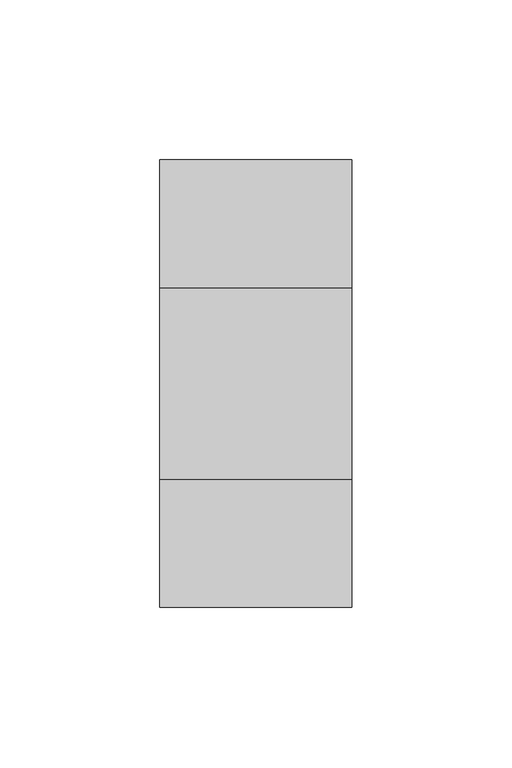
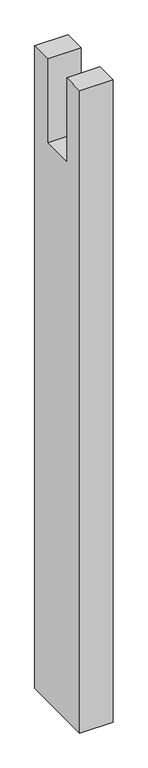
"""IFC4 building model written with IfcOpenShell, lengths in millimetres: proxy geometry, Modelos genéricos 11 : Modelos genéricos 11."""

from ifc_helpers import new_model, si_unit, frame, origin, place, context, project, spatial, polyline, outline, extrude, source, transform, mapped, element, save


def generic_models_12623c72(model_context):
    return source(origin(), model_context, "Body", "SweptSolid", [
        extrude(outline(polyline([(2018.6238165, 3160.0), (1878.6238165, 3160.0), (1878.6238165, 4380.0), (1918.6238165, 4380.0), (1918.6238165, 4220.0), (1978.6238165, 4220.0), (1978.6238165, 4380.0), (2018.6238165, 4380.0), (2018.6238165, 3160.0)])), frame((-12676.5527533, 0.0, 0.0), z_axis=(1.0, 0.0, 0.0), x_axis=(0.0, 1.0, 0.0)), (0.0, 0.0, 1.0), 60.0),
    ])


if __name__ == "__main__":
    model = new_model("IFC4")
    model_context = context("Model", 3, world=origin())
    ifc_project = project(units=[si_unit("LENGTHUNIT", "METRE", prefix="MILLI")], contexts=[model_context])
    site = spatial("IfcSite", under=ifc_project)
    building = spatial("IfcBuilding", under=site)
    placement = place(None, origin())
    generic_models_shape = generic_models_12623c72(model_context)
    element("IfcBuildingElementProxy", 1, Name="Modelos genéricos 11 : Modelos genéricos 11", ObjectType="Modelos genéricos 11 : Modelos genéricos 11", at=placement, inside=building, context=model_context, shape_type="MappedRepresentation", body=[
        mapped(generic_models_shape, transform((0.0, 0.0, 0.0), x_axis=(1.0, 0.0, 0.0), y_axis=(0.0, 1.0, 0.0), z_axis=(0.0, 0.0, 1.0))),
    ])
    save(model, "model.ifc")
